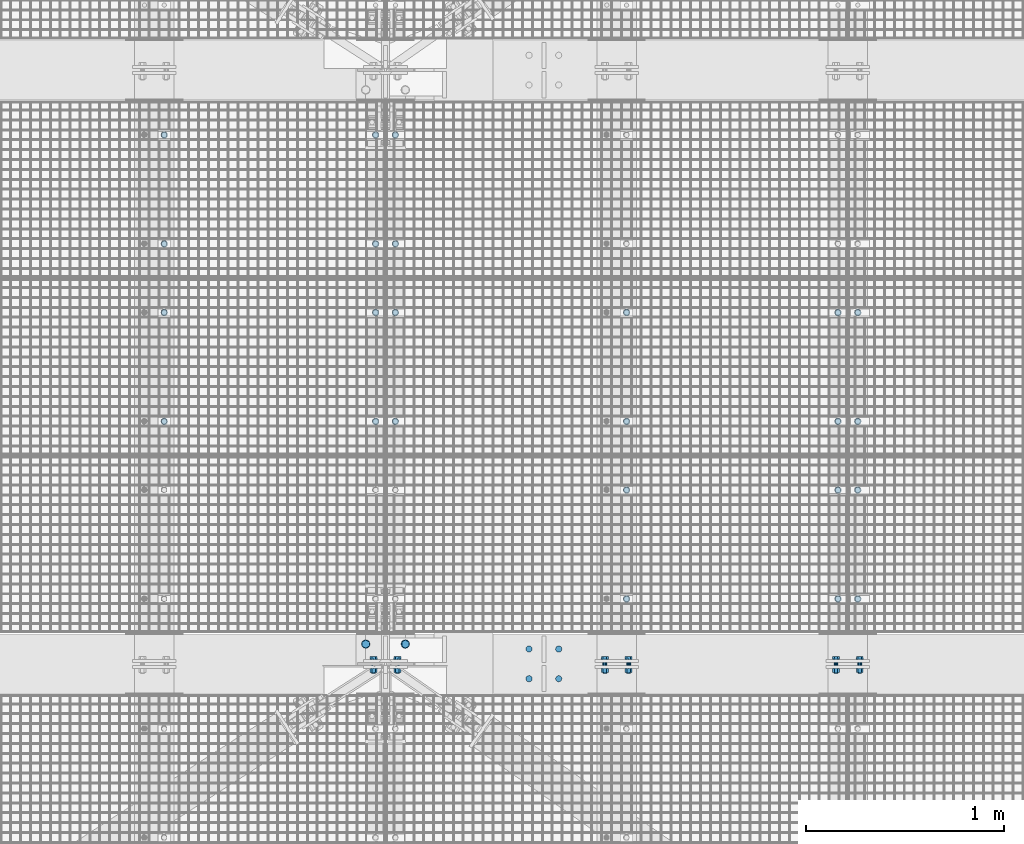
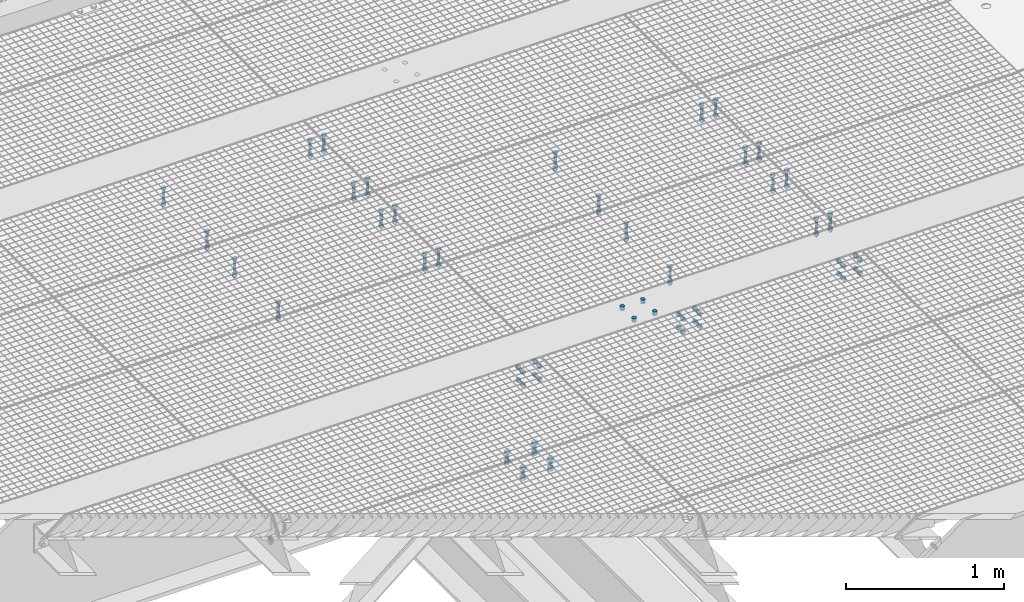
# One storey, part 28 of 1530: 17 mechanical fasteners.
"""IFC2X3 building model written with IfcOpenShell, lengths in millimetres."""

from ifc_helpers import new_model, si_unit, frame, origin_with_axes, place, context, subcontext, project, spatial, faceted_brep, source, transform, mapped, material, type_object, element, save


model = new_model("IFC2X3")

# Units and contexts
model_context = context("Model", 3, precision=1e-05, world=origin_with_axes())
body_context = subcontext(model_context, "Body", "Model", "MODEL_VIEW")
ifc_project = project(units=[si_unit("LENGTHUNIT", "METRE", prefix="MILLI"), si_unit("AREAUNIT", "SQUARE_METRE"), si_unit("VOLUMEUNIT", "CUBIC_METRE"), si_unit("MASSUNIT", "GRAM", prefix="KILO"), si_unit("TIMEUNIT", "SECOND"), si_unit("PLANEANGLEUNIT", "RADIAN"), si_unit("SOLIDANGLEUNIT", "STERADIAN"), si_unit("THERMODYNAMICTEMPERATUREUNIT", "DEGREE_CELSIUS"), si_unit("LUMINOUSINTENSITYUNIT", "LUMEN")], contexts=[model_context])

# Site, building, storey
site_placement = place(None, origin_with_axes())
site = spatial("IfcSite", under=ifc_project, at=site_placement, Name="Brattvåg", CompositionType="ELEMENT")
building_placement = place(site_placement, origin_with_axes())
building = spatial("IfcBuilding", under=site, at=building_placement, Name="Undefined", CompositionType="ELEMENT")
storey_placement = place(building_placement, origin_with_axes())
storey = spatial("IfcBuildingStorey", under=building, at=storey_placement, Name="Undefined", CompositionType="ELEMENT", Elevation=0.0)

# Mechanical fasteners
ifc_material = material(Name="8")
mechanical_fastener_type = type_object("IfcMechanicalFastenerType", Name="Bolt assembly")
shared_shape_1 = source(origin_with_axes(), body_context, "Body", "Brep", [
    faceted_brep([(17.3205080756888, -10.5, 0.0), (8.66025403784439, -10.5, 15.0), (-8.66025403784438, -10.5, 15.0), (-17.3205080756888, -10.5, 2.12115047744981e-15), (-8.66025403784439, -10.5, -15.0), (8.66025403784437, -10.5, -15.0), (8.66025403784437, 2.0, -15.0), (-8.66025403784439, 2.0, -15.0), (-17.3205080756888, 2.0, 2.12115047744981e-15), (-8.66025403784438, 2.0, 15.0), (8.66025403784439, 2.0, 15.0), (17.3205080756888, 2.0, 0.0), (10.0, 2.0, 0.0), (8.66025403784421, 2.0, 5.0000000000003), (4.9999999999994, 2.0, 8.66025403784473), (-1.03633598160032e-12, 2.0, 10.0), (-5.00000000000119, 2.0, 8.6602540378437), (-8.66025403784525, 2.0, 4.99999999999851), (-10.0, 2.0, -2.07267196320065e-12), (-8.66025403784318, 2.0, -5.00000000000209), (-4.99999999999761, 2.0, -8.66025403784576), (3.09790571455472e-12, 2.0, -10.0), (5.00000000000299, 2.0, -8.66025403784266), (8.66025403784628, 2.0, -4.99999999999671), (8.66025403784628, 142.0, -4.99999999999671), (5.00000000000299, 142.0, -8.66025403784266), (3.09790571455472e-12, 142.0, -10.0), (-4.99999999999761, 142.0, -8.66025403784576), (-8.66025403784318, 142.0, -5.00000000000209), (-10.0, 142.0, -2.07267196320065e-12), (-8.66025403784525, 142.0, 4.99999999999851), (-5.00000000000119, 142.0, 8.6602540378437), (-1.03633598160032e-12, 142.0, 10.0), (4.9999999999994, 142.0, 8.66025403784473), (8.66025403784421, 142.0, 5.0000000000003), (10.0, 142.0, 0.0), (18.5, 2.0, 0.0), (16.0214699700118, 2.0, 9.25000000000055), (9.2499999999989, 2.0, 16.0214699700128), (-1.9172215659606e-12, 2.0, 18.5), (-9.25000000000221, 2.0, 16.0214699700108), (-16.0214699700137, 2.0, 9.24999999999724), (-18.5, 2.0, -3.83444313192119e-12), (-16.0214699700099, 2.0, -9.25000000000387), (-9.24999999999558, 2.0, -16.0214699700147), (5.73112557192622e-12, 2.0, -18.5), (9.25000000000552, 2.0, -16.0214699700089), (16.0214699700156, 2.0, -9.24999999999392), (16.0214699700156, 5.0, -9.24999999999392), (9.25000000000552, 5.0, -16.0214699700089), (5.73112557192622e-12, 5.0, -18.5), (-9.24999999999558, 5.0, -16.0214699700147), (-16.0214699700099, 5.0, -9.25000000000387), (-18.5, 5.0, -3.83444313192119e-12), (-16.0214699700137, 5.0, 9.24999999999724), (-9.25000000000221, 5.0, 16.0214699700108), (-1.9172215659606e-12, 5.0, 18.5), (9.2499999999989, 5.0, 16.0214699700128), (16.0214699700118, 5.0, 9.25000000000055), (18.5, 5.0, 0.0), (18.5, 109.998931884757, 0.0), (16.0214699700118, 109.998931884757, 9.25000000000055), (9.2499999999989, 109.998931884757, 16.0214699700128), (-1.9172215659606e-12, 109.998931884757, 18.5), (-9.25000000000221, 109.998931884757, 16.0214699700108), (-16.0214699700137, 109.998931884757, 9.24999999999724), (-18.5, 109.998931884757, -3.83444313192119e-12), (-16.0214699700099, 109.998931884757, -9.25000000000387), (-9.24999999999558, 109.998931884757, -16.0214699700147), (5.73112557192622e-12, 109.998931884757, -18.5), (9.25000000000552, 109.998931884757, -16.0214699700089), (16.0214699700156, 109.998931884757, -9.24999999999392), (16.0214699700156, 112.998931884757, -9.24999999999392), (9.25000000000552, 112.998931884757, -16.0214699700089), (5.73112557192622e-12, 112.998931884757, -18.5), (-9.24999999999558, 112.998931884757, -16.0214699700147), (-16.0214699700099, 112.998931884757, -9.25000000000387), (-18.5, 112.998931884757, -3.83444313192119e-12), (-16.0214699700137, 112.998931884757, 9.24999999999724), (-9.25000000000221, 112.998931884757, 16.0214699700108), (-1.9172215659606e-12, 112.998931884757, 18.5), (9.2499999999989, 112.998931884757, 16.0214699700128), (16.0214699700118, 112.998931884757, 9.25000000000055), (18.5, 112.998931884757, 0.0), (17.3205080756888, 112.998931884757, 0.0), (8.66025403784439, 112.998931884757, 15.0), (-8.66025403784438, 112.998931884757, 15.0), (-17.3205080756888, 112.998931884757, 2.12115047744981e-15), (-8.66025403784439, 112.998931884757, -15.0), (8.66025403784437, 112.998931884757, -15.0), (8.66025403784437, 130.998931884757, -15.0), (-8.66025403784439, 130.998931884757, -15.0), (-17.3205080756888, 130.998931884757, 2.12115047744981e-15), (-8.66025403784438, 130.998931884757, 15.0), (8.66025403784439, 130.998931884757, 15.0), (17.3205080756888, 130.998931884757, 0.0)], [[[0, 1, 2, 3, 4, 5]], [[6, 7, 8, 9, 10, 11]], [[0, 11, 10, 1]], [[1, 10, 9, 2]], [[2, 9, 8, 3]], [[3, 8, 7, 4]], [[4, 7, 6, 5]], [[5, 6, 11, 0]], [[12, 13, 14, 15, 16, 17, 18, 19, 20, 21, 22, 23]], [[24, 25, 26, 27, 28, 29, 30, 31, 32, 33, 34, 35]], [[12, 35, 34, 13]], [[13, 34, 33, 14]], [[14, 33, 32, 15]], [[15, 32, 31, 16]], [[16, 31, 30, 17]], [[17, 30, 29, 18]], [[18, 29, 28, 19]], [[19, 28, 27, 20]], [[20, 27, 26, 21]], [[21, 26, 25, 22]], [[22, 25, 24, 23]], [[23, 24, 35, 12]], [[36, 37, 38, 39, 40, 41, 42, 43, 44, 45, 46, 47]], [[48, 49, 50, 51, 52, 53, 54, 55, 56, 57, 58, 59]], [[36, 59, 58, 37]], [[37, 58, 57, 38]], [[38, 57, 56, 39]], [[39, 56, 55, 40]], [[40, 55, 54, 41]], [[41, 54, 53, 42]], [[42, 53, 52, 43]], [[43, 52, 51, 44]], [[44, 51, 50, 45]], [[45, 50, 49, 46]], [[46, 49, 48, 47]], [[47, 48, 59, 36]], [[60, 61, 62, 63, 64, 65, 66, 67, 68, 69, 70, 71]], [[72, 73, 74, 75, 76, 77, 78, 79, 80, 81, 82, 83]], [[60, 83, 82, 61]], [[61, 82, 81, 62]], [[62, 81, 80, 63]], [[63, 80, 79, 64]], [[64, 79, 78, 65]], [[65, 78, 77, 66]], [[66, 77, 76, 67]], [[67, 76, 75, 68]], [[68, 75, 74, 69]], [[69, 74, 73, 70]], [[70, 73, 72, 71]], [[71, 72, 83, 60]], [[84, 85, 86, 87, 88, 89]], [[90, 91, 92, 93, 94, 95]], [[84, 95, 94, 85]], [[85, 94, 93, 86]], [[86, 93, 92, 87]], [[87, 92, 91, 88]], [[88, 91, 90, 89]], [[89, 90, 95, 84]]]),
])
for number, where, z_axis, x_axis, name in (
    (1, (14636.0047793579, 4224.91931152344, -25.0), (-1.0, 1.99999855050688e-09, 0.0), (0.0, 1.0, 0.0), "Bolt assembly"),
    (2, (14636.0047793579, 3327.91931152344, -25.0), (-1.0, 1.99999855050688e-09, 0.0), (0.0, 1.0, 0.0), "Bolt assembly"),
    (3, (12300.0047793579, 5121.91931152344, -25.0), (-1.0, 1.99999855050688e-09, 0.0), (0.0, 1.0, 0.0), "Bolt assembly"),
    (4, (12200.0148773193, 5121.9204864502, -25.0), (-1.0, 1.99999855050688e-09, 0.0), (0.0, 1.0, 0.0), "Bolt assembly"),
    (5, (11132.0119254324, 5121.99, -25.0), (-1.0, 1.99999855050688e-09, 0.0), (0.0, 1.0, 0.0), "Bolt assembly"),
    (6, (14536.0148773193, 4224.9204864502, -25.0), (-1.0, 1.99999855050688e-09, 0.0), (0.0, 1.0, 0.0), "Bolt assembly"),
    (7, (13468.0119254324, 4224.99, -25.0), (-1.0, 1.99999855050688e-09, 0.0), (0.0, 1.0, 0.0), "Bolt assembly"),
    (8, (12300.0047793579, 4224.91931152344, -25.0), (-1.0, 1.99999855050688e-09, 0.0), (0.0, 1.0, 0.0), "Bolt assembly"),
    (9, (12200.0148773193, 4224.9204864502, -25.0), (-1.0, 1.99999855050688e-09, 0.0), (0.0, 1.0, 0.0), "Bolt assembly"),
    (10, (11132.0119254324, 4224.99, -25.0), (-1.0, 1.99999855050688e-09, 0.0), (0.0, 1.0, 0.0), "Bolt assembly"),
    (11, (14536.0148773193, 3327.9204864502, -25.0), (-1.0, 1.99999855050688e-09, 0.0), (0.0, 1.0, 0.0), "Bolt assembly"),
    (12, (13468.0119254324, 3327.99, -25.0), (-1.0, 1.99999855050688e-09, 0.0), (0.0, 1.0, 0.0), "Bolt assembly"),
):
    element("IfcMechanicalFastener", number, at=place(storey_placement, frame(where, z_axis=z_axis, x_axis=x_axis)), inside=storey, type_object=mechanical_fastener_type, material=ifc_material, Name=name, NominalDiameter=20.0, NominalLength=140.0, context=body_context, shape_type="MappedRepresentation", body=[
        mapped(shared_shape_1, transform((0.0, 0.0, 0.0))),
        mapped(shared_shape_1, transform((549.999999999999, 0.0, 0.0))),
    ])
shared_shape_2 = source(origin_with_axes(), body_context, "Body", "Brep", [
    faceted_brep([(16.0, 0.0, 0.0), (13.8564064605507, 0.0, 8.00000000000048), (7.99999999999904, 0.0, 13.8564064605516), (-1.65813757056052e-12, 0.0, 16.0), (-8.00000000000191, 0.0, 13.8564064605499), (-13.8564064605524, 0.0, 7.99999999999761), (-16.0, 0.0, -3.31627514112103e-12), (-13.8564064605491, 0.0, -8.00000000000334), (-7.99999999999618, 0.0, -13.8564064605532), (4.95664914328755e-12, 0.0, -16.0), (8.00000000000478, 0.0, -13.8564064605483), (13.8564064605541, 0.0, -7.99999999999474), (13.8564064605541, 30.1, -7.99999999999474), (8.00000000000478, 30.1, -13.8564064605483), (4.95664914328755e-12, 30.1, -16.0), (-7.99999999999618, 30.1, -13.8564064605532), (-13.8564064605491, 30.1, -8.00000000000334), (-16.0, 30.1, -3.31627514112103e-12), (-13.8564064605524, 30.1, 7.99999999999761), (-8.00000000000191, 30.1, 13.8564064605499), (-1.65813757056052e-12, 30.1, 16.0), (7.99999999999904, 30.1, 13.8564064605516), (13.8564064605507, 30.1, 8.00000000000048), (16.0, 30.1, 0.0)], [[[0, 1, 2, 3, 4, 5, 6, 7, 8, 9, 10, 11]], [[12, 13, 14, 15, 16, 17, 18, 19, 20, 21, 22, 23]], [[0, 23, 22, 1]], [[1, 22, 21, 2]], [[2, 21, 20, 3]], [[3, 20, 19, 4]], [[4, 19, 18, 5]], [[5, 18, 17, 6]], [[6, 17, 16, 7]], [[7, 16, 15, 8]], [[8, 15, 14, 9]], [[9, 14, 13, 10]], [[10, 13, 12, 11]], [[11, 12, 23, 0]]]),
])
mechanical_fastener_1_placement = place(storey_placement, frame((13125.0, 3000.0, 0.0), z_axis=(0.0, -1.0, 0.0), x_axis=(-1.0, 1.99999855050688e-09, 0.0)))
element("IfcMechanicalFastener", 13, at=mechanical_fastener_1_placement, inside=storey, type_object=mechanical_fastener_type, material=ifc_material, Name="Bolt assembly", NominalDiameter=30.0, NominalLength=30.0, context=body_context, shape_type="MappedRepresentation", body=[
    mapped(shared_shape_2, transform((0.0, 0.0, -75.0))),
    mapped(shared_shape_2, transform((150.0, 0.0, -75.0))),
    mapped(shared_shape_2, transform((0.0, 0.0, 75.0))),
    mapped(shared_shape_2, transform((150.0, 0.0, 75.0))),
])
shared_shape_3 = source(origin_with_axes(), body_context, "Body", "Brep", [
    faceted_brep([(20.7846096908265, -19.0, 0.0), (10.3923048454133, -19.0, 18.0), (-10.3923048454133, -19.0, 18.0), (-20.7846096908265, -19.0, 2.54538057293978e-15), (-10.3923048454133, -19.0, -18.0), (10.3923048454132, -19.0, -18.0), (10.3923048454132, -4.0, -18.0), (-10.3923048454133, -4.0, -18.0), (-20.7846096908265, -4.0, 2.54538057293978e-15), (-10.3923048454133, -4.0, 18.0), (10.3923048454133, -4.0, 18.0), (20.7846096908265, -4.0, 0.0), (12.0, -4.0, 0.0), (10.3923048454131, -4.0, 6.00000000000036), (5.99999999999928, -4.0, 10.3923048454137), (-1.24360317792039e-12, -4.0, 12.0), (-6.00000000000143, -4.0, 10.3923048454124), (-10.3923048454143, -4.0, 5.99999999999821), (-12.0, -4.0, -2.48720635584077e-12), (-10.3923048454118, -4.0, -6.00000000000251), (-5.99999999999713, -4.0, -10.3923048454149), (3.71748685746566e-12, -4.0, -12.0), (6.00000000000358, -4.0, -10.3923048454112), (10.3923048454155, -4.0, -5.99999999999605), (10.3923048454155, 86.0, -5.99999999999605), (6.00000000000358, 86.0, -10.3923048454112), (3.71748685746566e-12, 86.0, -12.0), (-5.99999999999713, 86.0, -10.3923048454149), (-10.3923048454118, 86.0, -6.00000000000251), (-12.0, 86.0, -2.48720635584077e-12), (-10.3923048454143, 86.0, 5.99999999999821), (-6.00000000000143, 86.0, 10.3923048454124), (-1.24360317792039e-12, 86.0, 12.0), (5.99999999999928, 86.0, 10.3923048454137), (10.3923048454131, 86.0, 6.00000000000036), (12.0, 86.0, 0.0), (22.0, -4.0, 0.0), (19.0525588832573, -4.0, 11.0000000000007), (10.9999999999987, -4.0, 19.0525588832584), (-2.27993915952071e-12, -4.0, 22.0), (-11.0000000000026, -4.0, 19.0525588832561), (-19.0525588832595, -4.0, 10.9999999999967), (-22.0, -4.0, -4.55987831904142e-12), (-19.052558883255, -4.0, -11.0000000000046), (-10.9999999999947, -4.0, -19.0525588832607), (6.81539257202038e-12, -4.0, -22.0), (11.0000000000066, -4.0, -19.0525588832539), (19.0525588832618, -4.0, -10.9999999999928), (19.0525588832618, 0.0, -10.9999999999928), (11.0000000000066, 0.0, -19.0525588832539), (6.81539257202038e-12, 0.0, -22.0), (-10.9999999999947, 0.0, -19.0525588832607), (-19.052558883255, 0.0, -11.0000000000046), (-22.0, 0.0, -4.55987831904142e-12), (-19.0525588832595, 0.0, 10.9999999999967), (-11.0000000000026, 0.0, 19.0525588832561), (-2.27993915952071e-12, 0.0, 22.0), (10.9999999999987, 0.0, 19.0525588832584), (19.0525588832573, 0.0, 11.0000000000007), (22.0, 0.0, 0.0), (22.0, 54.9998779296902, 0.0), (19.0525588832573, 54.9998779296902, 11.0000000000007), (10.9999999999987, 54.9998779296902, 19.0525588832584), (-2.27993915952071e-12, 54.9998779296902, 22.0), (-11.0000000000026, 54.9998779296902, 19.0525588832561), (-19.0525588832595, 54.9998779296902, 10.9999999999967), (-22.0, 54.9998779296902, -4.55987831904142e-12), (-19.052558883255, 54.9998779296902, -11.0000000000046), (-10.9999999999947, 54.9998779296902, -19.0525588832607), (6.81539257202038e-12, 54.9998779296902, -22.0), (11.0000000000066, 54.9998779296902, -19.0525588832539), (19.0525588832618, 54.9998779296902, -10.9999999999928), (19.0525588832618, 58.9998779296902, -10.9999999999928), (11.0000000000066, 58.9998779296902, -19.0525588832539), (6.81539257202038e-12, 58.9998779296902, -22.0), (-10.9999999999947, 58.9998779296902, -19.0525588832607), (-19.052558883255, 58.9998779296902, -11.0000000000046), (-22.0, 58.9998779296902, -4.55987831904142e-12), (-19.0525588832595, 58.9998779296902, 10.9999999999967), (-11.0000000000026, 58.9998779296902, 19.0525588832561), (-2.27993915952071e-12, 58.9998779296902, 22.0), (10.9999999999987, 58.9998779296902, 19.0525588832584), (19.0525588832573, 58.9998779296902, 11.0000000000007), (22.0, 58.9998779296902, 0.0), (20.7846096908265, 58.9998779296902, 0.0), (10.3923048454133, 58.9998779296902, 18.0), (-10.3923048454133, 58.9998779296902, 18.0), (-20.7846096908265, 58.9998779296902, 2.54538057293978e-15), (-10.3923048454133, 58.9998779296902, -18.0), (10.3923048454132, 58.9998779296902, -18.0), (10.3923048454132, 80.4998779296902, -18.0), (-10.3923048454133, 80.4998779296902, -18.0), (-20.7846096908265, 80.4998779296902, 2.54538057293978e-15), (-10.3923048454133, 80.4998779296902, 18.0), (10.3923048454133, 80.4998779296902, 18.0), (20.7846096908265, 80.4998779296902, 0.0)], [[[0, 1, 2, 3, 4, 5]], [[6, 7, 8, 9, 10, 11]], [[0, 11, 10, 1]], [[1, 10, 9, 2]], [[2, 9, 8, 3]], [[3, 8, 7, 4]], [[4, 7, 6, 5]], [[5, 6, 11, 0]], [[12, 13, 14, 15, 16, 17, 18, 19, 20, 21, 22, 23]], [[24, 25, 26, 27, 28, 29, 30, 31, 32, 33, 34, 35]], [[12, 35, 34, 13]], [[13, 34, 33, 14]], [[14, 33, 32, 15]], [[15, 32, 31, 16]], [[16, 31, 30, 17]], [[17, 30, 29, 18]], [[18, 29, 28, 19]], [[19, 28, 27, 20]], [[20, 27, 26, 21]], [[21, 26, 25, 22]], [[22, 25, 24, 23]], [[23, 24, 35, 12]], [[36, 37, 38, 39, 40, 41, 42, 43, 44, 45, 46, 47]], [[48, 49, 50, 51, 52, 53, 54, 55, 56, 57, 58, 59]], [[36, 59, 58, 37]], [[37, 58, 57, 38]], [[38, 57, 56, 39]], [[39, 56, 55, 40]], [[40, 55, 54, 41]], [[41, 54, 53, 42]], [[42, 53, 52, 43]], [[43, 52, 51, 44]], [[44, 51, 50, 45]], [[45, 50, 49, 46]], [[46, 49, 48, 47]], [[47, 48, 59, 36]], [[60, 61, 62, 63, 64, 65, 66, 67, 68, 69, 70, 71]], [[72, 73, 74, 75, 76, 77, 78, 79, 80, 81, 82, 83]], [[60, 83, 82, 61]], [[61, 82, 81, 62]], [[62, 81, 80, 63]], [[63, 80, 79, 64]], [[64, 79, 78, 65]], [[65, 78, 77, 66]], [[66, 77, 76, 67]], [[67, 76, 75, 68]], [[68, 75, 74, 69]], [[69, 74, 73, 70]], [[70, 73, 72, 71]], [[71, 72, 83, 60]], [[84, 85, 86, 87, 88, 89]], [[90, 91, 92, 93, 94, 95]], [[84, 95, 94, 85]], [[85, 94, 93, 86]], [[86, 93, 92, 87]], [[87, 92, 91, 88]], [[88, 91, 90, 89]], [[89, 90, 95, 84]]]),
    faceted_brep([(13.0, 0.0999999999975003, 0.0), (11.2583302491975, 0.0999999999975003, 6.50000000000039), (6.49999999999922, 0.0999999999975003, 11.2583302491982), (-1.34723677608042e-12, 0.0999999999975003, 13.0), (-6.50000000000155, 0.0999999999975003, 11.2583302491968), (-11.2583302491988, 0.0999999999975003, 6.49999999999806), (-13.0, 0.0999999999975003, -2.69447355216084e-12), (-11.2583302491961, 0.0999999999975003, -6.50000000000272), (-6.4999999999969, 0.0999999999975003, -11.2583302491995), (4.02727742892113e-12, 0.0999999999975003, -13.0), (6.50000000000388, 0.0999999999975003, -11.2583302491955), (11.2583302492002, 0.0999999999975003, -6.49999999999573), (11.2583302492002, 30.1, -6.49999999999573), (6.50000000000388, 30.1, -11.2583302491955), (4.02727742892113e-12, 30.1, -13.0), (-6.4999999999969, 30.1, -11.2583302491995), (-11.2583302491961, 30.1, -6.50000000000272), (-13.0, 30.1, -2.69447355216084e-12), (-11.2583302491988, 30.1, 6.49999999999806), (-6.50000000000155, 30.1, 11.2583302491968), (-1.34723677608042e-12, 30.1, 13.0), (6.49999999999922, 30.1, 11.2583302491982), (11.2583302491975, 30.1, 6.50000000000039), (13.0, 30.1, 0.0), (13.0, 29.8998779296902, 0.0), (11.2583302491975, 29.8998779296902, 6.50000000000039), (6.49999999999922, 29.8998779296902, 11.2583302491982), (-1.34723677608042e-12, 29.8998779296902, 13.0), (-6.50000000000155, 29.8998779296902, 11.2583302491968), (-11.2583302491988, 29.8998779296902, 6.49999999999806), (-13.0, 29.8998779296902, -2.69447355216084e-12), (-11.2583302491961, 29.8998779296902, -6.50000000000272), (-6.4999999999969, 29.8998779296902, -11.2583302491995), (4.02727742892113e-12, 29.8998779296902, -13.0), (6.50000000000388, 29.8998779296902, -11.2583302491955), (11.2583302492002, 29.8998779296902, -6.49999999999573), (11.2583302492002, 54.9998779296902, -6.49999999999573), (6.50000000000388, 54.9998779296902, -11.2583302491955), (4.02727742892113e-12, 54.9998779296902, -13.0), (-6.4999999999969, 54.9998779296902, -11.2583302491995), (-11.2583302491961, 54.9998779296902, -6.50000000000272), (-13.0, 54.9998779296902, -2.69447355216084e-12), (-11.2583302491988, 54.9998779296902, 6.49999999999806), (-6.50000000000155, 54.9998779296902, 11.2583302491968), (-1.34723677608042e-12, 54.9998779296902, 13.0), (6.49999999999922, 54.9998779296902, 11.2583302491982), (11.2583302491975, 54.9998779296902, 6.50000000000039), (13.0, 54.9998779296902, 0.0)], [[[0, 1, 2, 3, 4, 5, 6, 7, 8, 9, 10, 11]], [[12, 13, 14, 15, 16, 17, 18, 19, 20, 21, 22, 23]], [[0, 23, 22, 1]], [[1, 22, 21, 2]], [[2, 21, 20, 3]], [[3, 20, 19, 4]], [[4, 19, 18, 5]], [[5, 18, 17, 6]], [[6, 17, 16, 7]], [[7, 16, 15, 8]], [[8, 15, 14, 9]], [[9, 14, 13, 10]], [[10, 13, 12, 11]], [[11, 12, 23, 0]], [[24, 25, 26, 27, 28, 29, 30, 31, 32, 33, 34, 35]], [[36, 37, 38, 39, 40, 41, 42, 43, 44, 45, 46, 47]], [[24, 47, 46, 25]], [[25, 46, 45, 26]], [[26, 45, 44, 27]], [[27, 44, 43, 28]], [[28, 43, 42, 29]], [[29, 42, 41, 30]], [[30, 41, 40, 31]], [[31, 40, 39, 32]], [[32, 39, 38, 33]], [[33, 38, 37, 34]], [[34, 37, 36, 35]], [[35, 36, 47, 24]]]),
])
mechanical_fastener_2_placement = place(storey_placement, frame((12250.0000839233, 3100.0, -860.0), z_axis=(1.0, 0.0, 0.0), x_axis=(0.0, -1.0, 0.0)))
element("IfcMechanicalFastener", 14, at=mechanical_fastener_2_placement, inside=storey, type_object=mechanical_fastener_type, material=ifc_material, Name="Bolt assembly", NominalDiameter=24.0, NominalLength=90.0, context=body_context, shape_type="MappedRepresentation", body=[
    mapped(shared_shape_3, transform((0.0, 0.0, -100.0))),
    mapped(shared_shape_3, transform((200.0, 0.0, -100.0))),
    mapped(shared_shape_3, transform((0.0, 0.0, 100.0))),
    mapped(shared_shape_3, transform((200.0, 0.0, 100.0))),
])
shared_shape_4 = source(origin_with_axes(), body_context, "Body", "Brep", [
    faceted_brep([(17.3205080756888, -15.5000000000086, 0.0), (8.66025403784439, -15.5000000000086, 15.0), (-8.66025403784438, -15.5000000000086, 15.0), (-17.3205080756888, -15.5000000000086, 2.12115047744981e-15), (-8.66025403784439, -15.5000000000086, -15.0), (8.66025403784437, -15.5000000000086, -15.0), (8.66025403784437, -3.00000000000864, -15.0), (-8.66025403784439, -3.00000000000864, -15.0), (-17.3205080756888, -3.00000000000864, 2.12115047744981e-15), (-8.66025403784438, -3.00000000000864, 15.0), (8.66025403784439, -3.00000000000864, 15.0), (17.3205080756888, -3.00000000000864, 0.0), (10.0, -3.00000000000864, 0.0), (8.66025403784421, -3.00000000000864, 5.0000000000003), (4.9999999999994, -3.00000000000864, 8.66025403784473), (-1.03633598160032e-12, -3.00000000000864, 10.0), (-5.00000000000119, -3.00000000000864, 8.6602540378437), (-8.66025403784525, -3.00000000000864, 4.99999999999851), (-10.0, -3.00000000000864, -2.07267196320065e-12), (-8.66025403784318, -3.00000000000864, -5.00000000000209), (-4.99999999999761, -3.00000000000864, -8.66025403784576), (3.09790571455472e-12, -3.00000000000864, -10.0), (5.00000000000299, -3.00000000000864, -8.66025403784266), (8.66025403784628, -3.00000000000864, -4.99999999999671), (8.66025403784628, 72.0, -4.99999999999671), (5.00000000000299, 72.0, -8.66025403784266), (3.09790571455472e-12, 72.0, -10.0), (-4.99999999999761, 72.0, -8.66025403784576), (-8.66025403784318, 72.0, -5.00000000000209), (-10.0, 72.0, -2.07267196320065e-12), (-8.66025403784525, 72.0, 4.99999999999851), (-5.00000000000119, 72.0, 8.6602540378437), (-1.03633598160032e-12, 72.0, 10.0), (4.9999999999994, 72.0, 8.66025403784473), (8.66025403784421, 72.0, 5.0000000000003), (10.0, 72.0, 0.0), (18.5, -3.00000000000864, 0.0), (16.0214699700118, -3.00000000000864, 9.25000000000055), (9.2499999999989, -3.00000000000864, 16.0214699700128), (-1.9172215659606e-12, -3.00000000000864, 18.5), (-9.25000000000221, -3.00000000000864, 16.0214699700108), (-16.0214699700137, -3.00000000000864, 9.24999999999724), (-18.5, -3.00000000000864, -3.83444313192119e-12), (-16.0214699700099, -3.00000000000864, -9.25000000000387), (-9.24999999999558, -3.00000000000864, -16.0214699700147), (5.73112557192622e-12, -3.00000000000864, -18.5), (9.25000000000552, -3.00000000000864, -16.0214699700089), (16.0214699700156, -3.00000000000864, -9.24999999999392), (16.0214699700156, -8.64019966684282e-12, -9.24999999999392), (9.25000000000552, -8.64019966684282e-12, -16.0214699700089), (5.73112557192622e-12, -8.64019966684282e-12, -18.5), (-9.24999999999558, -8.64019966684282e-12, -16.0214699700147), (-16.0214699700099, -8.64019966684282e-12, -9.25000000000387), (-18.5, -8.64019966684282e-12, -3.83444313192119e-12), (-16.0214699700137, -8.64019966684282e-12, 9.24999999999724), (-9.25000000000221, -8.64019966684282e-12, 16.0214699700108), (-1.9172215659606e-12, -8.64019966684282e-12, 18.5), (9.2499999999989, -8.64019966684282e-12, 16.0214699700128), (16.0214699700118, -8.64019966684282e-12, 9.25000000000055), (18.5, -8.64019966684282e-12, 0.0), (18.5, 46.000061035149, 0.0), (16.0214699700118, 46.000061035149, 9.25000000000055), (9.2499999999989, 46.000061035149, 16.0214699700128), (-1.9172215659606e-12, 46.000061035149, 18.5), (-9.25000000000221, 46.000061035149, 16.0214699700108), (-16.0214699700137, 46.000061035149, 9.24999999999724), (-18.5, 46.000061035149, -3.83444313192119e-12), (-16.0214699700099, 46.000061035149, -9.25000000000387), (-9.24999999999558, 46.000061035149, -16.0214699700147), (5.73112557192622e-12, 46.000061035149, -18.5), (9.25000000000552, 46.000061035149, -16.0214699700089), (16.0214699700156, 46.000061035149, -9.24999999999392), (16.0214699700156, 49.000061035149, -9.24999999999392), (9.25000000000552, 49.000061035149, -16.0214699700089), (5.73112557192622e-12, 49.000061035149, -18.5), (-9.24999999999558, 49.000061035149, -16.0214699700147), (-16.0214699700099, 49.000061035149, -9.25000000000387), (-18.5, 49.000061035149, -3.83444313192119e-12), (-16.0214699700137, 49.000061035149, 9.24999999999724), (-9.25000000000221, 49.000061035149, 16.0214699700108), (-1.9172215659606e-12, 49.000061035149, 18.5), (9.2499999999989, 49.000061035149, 16.0214699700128), (16.0214699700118, 49.000061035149, 9.25000000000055), (18.5, 49.000061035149, 0.0), (17.3205080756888, 49.000061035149, 0.0), (8.66025403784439, 49.000061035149, 15.0), (-8.66025403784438, 49.000061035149, 15.0), (-17.3205080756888, 49.000061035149, 2.12115047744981e-15), (-8.66025403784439, 49.000061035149, -15.0), (8.66025403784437, 49.000061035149, -15.0), (8.66025403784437, 67.000061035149, -15.0), (-8.66025403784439, 67.000061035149, -15.0), (-17.3205080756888, 67.000061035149, 2.12115047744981e-15), (-8.66025403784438, 67.000061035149, 15.0), (8.66025403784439, 67.000061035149, 15.0), (17.3205080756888, 67.000061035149, 0.0)], [[[0, 1, 2, 3, 4, 5]], [[6, 7, 8, 9, 10, 11]], [[0, 11, 10, 1]], [[1, 10, 9, 2]], [[2, 9, 8, 3]], [[3, 8, 7, 4]], [[4, 7, 6, 5]], [[5, 6, 11, 0]], [[12, 13, 14, 15, 16, 17, 18, 19, 20, 21, 22, 23]], [[24, 25, 26, 27, 28, 29, 30, 31, 32, 33, 34, 35]], [[12, 35, 34, 13]], [[13, 34, 33, 14]], [[14, 33, 32, 15]], [[15, 32, 31, 16]], [[16, 31, 30, 17]], [[17, 30, 29, 18]], [[18, 29, 28, 19]], [[19, 28, 27, 20]], [[20, 27, 26, 21]], [[21, 26, 25, 22]], [[22, 25, 24, 23]], [[23, 24, 35, 12]], [[36, 37, 38, 39, 40, 41, 42, 43, 44, 45, 46, 47]], [[48, 49, 50, 51, 52, 53, 54, 55, 56, 57, 58, 59]], [[36, 59, 58, 37]], [[37, 58, 57, 38]], [[38, 57, 56, 39]], [[39, 56, 55, 40]], [[40, 55, 54, 41]], [[41, 54, 53, 42]], [[42, 53, 52, 43]], [[43, 52, 51, 44]], [[44, 51, 50, 45]], [[45, 50, 49, 46]], [[46, 49, 48, 47]], [[47, 48, 59, 36]], [[60, 61, 62, 63, 64, 65, 66, 67, 68, 69, 70, 71]], [[72, 73, 74, 75, 76, 77, 78, 79, 80, 81, 82, 83]], [[60, 83, 82, 61]], [[61, 82, 81, 62]], [[62, 81, 80, 63]], [[63, 80, 79, 64]], [[64, 79, 78, 65]], [[65, 78, 77, 66]], [[66, 77, 76, 67]], [[67, 76, 75, 68]], [[68, 75, 74, 69]], [[69, 74, 73, 70]], [[70, 73, 72, 71]], [[71, 72, 83, 60]], [[84, 85, 86, 87, 88, 89]], [[90, 91, 92, 93, 94, 95]], [[84, 95, 94, 85]], [[85, 94, 93, 86]], [[86, 93, 92, 87]], [[87, 92, 91, 88]], [[88, 91, 90, 89]], [[89, 90, 95, 84]]]),
    faceted_brep([(11.0, 0.1, 0.0), (9.52627944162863, 0.1, 5.50000000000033), (5.49999999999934, 0.1, 9.5262794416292), (-1.13996957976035e-12, 0.1, 11.0), (-5.50000000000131, 0.1, 9.52627944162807), (-9.52627944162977, 0.1, 5.49999999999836), (-11.0, 0.1, -2.27993915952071e-12), (-9.5262794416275, 0.1, -5.5000000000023), (-5.49999999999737, 0.1, -9.52627944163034), (3.40769628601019e-12, 0.1, -11.0), (5.50000000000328, 0.1, -9.52627944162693), (9.52627944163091, 0.1, -5.49999999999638), (9.52627944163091, 15.1, -5.49999999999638), (5.50000000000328, 15.1, -9.52627944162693), (3.40769628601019e-12, 15.1, -11.0), (-5.49999999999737, 15.1, -9.52627944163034), (-9.5262794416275, 15.1, -5.5000000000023), (-11.0, 15.1, -2.27993915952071e-12), (-9.52627944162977, 15.1, 5.49999999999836), (-5.50000000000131, 15.1, 9.52627944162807), (-1.13996957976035e-12, 15.1, 11.0), (5.49999999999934, 15.1, 9.5262794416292), (9.52627944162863, 15.1, 5.50000000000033), (11.0, 15.1, 0.0), (11.0, 15.0015563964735, 0.0), (9.52627944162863, 15.0015563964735, 5.50000000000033), (5.49999999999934, 15.0015563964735, 9.5262794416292), (-1.13996957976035e-12, 15.0015563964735, 11.0), (-5.50000000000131, 15.0015563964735, 9.52627944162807), (-9.52627944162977, 15.0015563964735, 5.49999999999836), (-11.0, 15.0015563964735, -2.27993915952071e-12), (-9.5262794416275, 15.0015563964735, -5.5000000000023), (-5.49999999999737, 15.0015563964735, -9.52627944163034), (3.40769628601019e-12, 15.0015563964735, -11.0), (5.50000000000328, 15.0015563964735, -9.52627944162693), (9.52627944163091, 15.0015563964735, -5.49999999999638), (9.52627944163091, 31.0015563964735, -5.49999999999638), (5.50000000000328, 31.0015563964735, -9.52627944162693), (3.40769628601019e-12, 31.0015563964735, -11.0), (-5.49999999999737, 31.0015563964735, -9.52627944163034), (-9.5262794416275, 31.0015563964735, -5.5000000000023), (-11.0, 31.0015563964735, -2.27993915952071e-12), (-9.52627944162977, 31.0015563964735, 5.49999999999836), (-5.50000000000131, 31.0015563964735, 9.52627944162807), (-1.13996957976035e-12, 31.0015563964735, 11.0), (5.49999999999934, 31.0015563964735, 9.5262794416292), (9.52627944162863, 31.0015563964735, 5.50000000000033), (11.0, 31.0015563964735, 0.0), (11.0, 30.900061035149, 0.0), (9.52627944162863, 30.900061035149, 5.50000000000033), (5.49999999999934, 30.900061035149, 9.5262794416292), (-1.13996957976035e-12, 30.900061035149, 11.0), (-5.50000000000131, 30.900061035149, 9.52627944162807), (-9.52627944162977, 30.900061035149, 5.49999999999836), (-11.0, 30.900061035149, -2.27993915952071e-12), (-9.5262794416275, 30.900061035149, -5.5000000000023), (-5.49999999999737, 30.900061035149, -9.52627944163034), (3.40769628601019e-12, 30.900061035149, -11.0), (5.50000000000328, 30.900061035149, -9.52627944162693), (9.52627944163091, 30.900061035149, -5.49999999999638), (9.52627944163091, 46.000061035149, -5.49999999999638), (5.50000000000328, 46.000061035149, -9.52627944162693), (3.40769628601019e-12, 46.000061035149, -11.0), (-5.49999999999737, 46.000061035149, -9.52627944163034), (-9.5262794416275, 46.000061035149, -5.5000000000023), (-11.0, 46.000061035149, -2.27993915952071e-12), (-9.52627944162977, 46.000061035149, 5.49999999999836), (-5.50000000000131, 46.000061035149, 9.52627944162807), (-1.13996957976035e-12, 46.000061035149, 11.0), (5.49999999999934, 46.000061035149, 9.5262794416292), (9.52627944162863, 46.000061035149, 5.50000000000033), (11.0, 46.000061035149, 0.0)], [[[0, 1, 2, 3, 4, 5, 6, 7, 8, 9, 10, 11]], [[12, 13, 14, 15, 16, 17, 18, 19, 20, 21, 22, 23]], [[0, 23, 22, 1]], [[1, 22, 21, 2]], [[2, 21, 20, 3]], [[3, 20, 19, 4]], [[4, 19, 18, 5]], [[5, 18, 17, 6]], [[6, 17, 16, 7]], [[7, 16, 15, 8]], [[8, 15, 14, 9]], [[9, 14, 13, 10]], [[10, 13, 12, 11]], [[11, 12, 23, 0]], [[24, 25, 26, 27, 28, 29, 30, 31, 32, 33, 34, 35]], [[36, 37, 38, 39, 40, 41, 42, 43, 44, 45, 46, 47]], [[24, 47, 46, 25]], [[25, 46, 45, 26]], [[26, 45, 44, 27]], [[27, 44, 43, 28]], [[28, 43, 42, 29]], [[29, 42, 41, 30]], [[30, 41, 40, 31]], [[31, 40, 39, 32]], [[32, 39, 38, 33]], [[33, 38, 37, 34]], [[34, 37, 36, 35]], [[35, 36, 47, 24]], [[48, 49, 50, 51, 52, 53, 54, 55, 56, 57, 58, 59]], [[60, 61, 62, 63, 64, 65, 66, 67, 68, 69, 70, 71]], [[48, 71, 70, 49]], [[49, 70, 69, 50]], [[50, 69, 68, 51]], [[51, 68, 67, 52]], [[52, 67, 66, 53]], [[53, 66, 65, 54]], [[54, 65, 64, 55]], [[55, 64, 63, 56]], [[56, 63, 62, 57]], [[57, 62, 61, 58]], [[58, 61, 60, 59]], [[59, 60, 71, 48]]]),
])
for number, where, z_axis, x_axis, name in (
    (15, (14646.0019683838, 3023.00155639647, -219.998836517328), (0.0, 0.0, 1.0), (-1.0, 1.99999855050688e-09, 0.0), "Bolt assembly"),
    (16, (13478.0019683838, 3023.00155639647, -219.998836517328), (0.0, 0.0, 1.0), (-1.0, 1.99999855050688e-09, 0.0), "Bolt assembly"),
    (17, (12310.0019683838, 3023.00155639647, -219.998836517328), (0.0, 0.0, 1.0), (-1.0, 1.99999855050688e-09, 0.0), "Bolt assembly"),
):
    element("IfcMechanicalFastener", number, at=place(storey_placement, frame(where, z_axis=z_axis, x_axis=x_axis)), inside=storey, type_object=mechanical_fastener_type, material=ifc_material, Name=name, NominalDiameter=20.0, NominalLength=75.0, context=body_context, shape_type="MappedRepresentation", body=[
        mapped(shared_shape_4, transform((0.0, 0.0, -50.0))),
        mapped(shared_shape_4, transform((120.0, 0.0, -50.0))),
        mapped(shared_shape_4, transform((0.0, 0.0, 50.0))),
        mapped(shared_shape_4, transform((120.0, 0.0, 50.0))),
    ])

save(model, "model.ifc")
